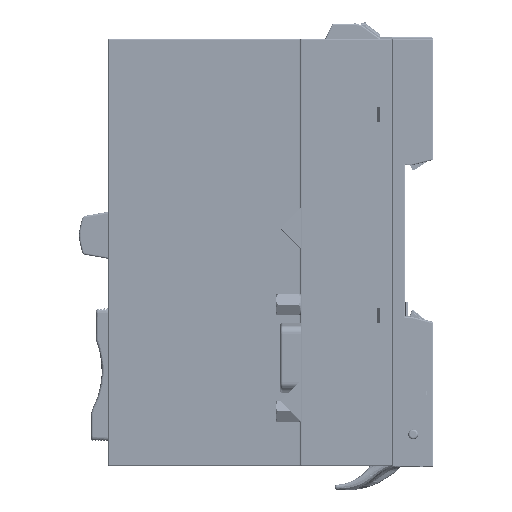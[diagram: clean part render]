
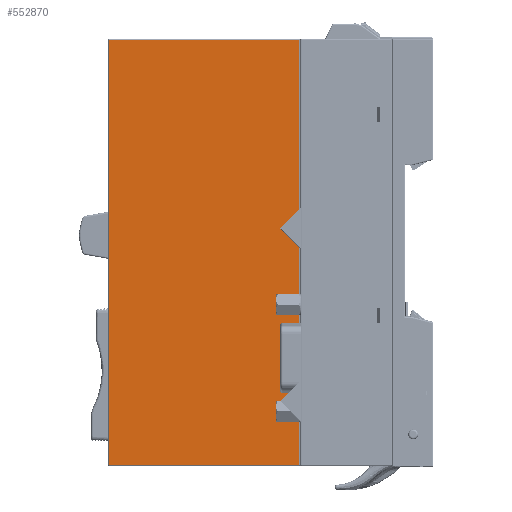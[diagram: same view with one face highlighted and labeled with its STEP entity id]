
A CAD part, left-side view. The second image highlights one B-rep face of the part: STEP entity #552870.
In plain terms, the highlighted planar face has unit normal (-1, 0.026, 0).
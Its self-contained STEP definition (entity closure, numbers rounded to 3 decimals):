
#99652=DIRECTION('',(0.026,1.,0.));
#99653=VECTOR('',#99652,44.431);
#99654=CARTESIAN_POINT('',(17.479,21.592,-49.7));
#99655=LINE('',#99654,#99653);
#99656=DIRECTION('',(0.,0.,1.));
#99657=VECTOR('',#99656,99.4);
#99658=CARTESIAN_POINT('',(18.642,66.008,-49.7));
#99659=LINE('',#99658,#99657);
#99660=DIRECTION('',(-0.026,-1.,0.));
#99661=VECTOR('',#99660,44.431);
#99662=CARTESIAN_POINT('',(18.642,66.008,49.7));
#99663=LINE('',#99662,#99661);
#99664=DIRECTION('',(0.,0.,1.));
#99665=VECTOR('',#99664,99.4);
#99666=CARTESIAN_POINT('',(17.479,21.592,-49.7));
#99667=LINE('',#99666,#99665);
#354683=CARTESIAN_POINT('',(17.479,21.592,-49.7));
#354684=CARTESIAN_POINT('',(18.642,66.008,-49.7));
#354685=VERTEX_POINT('',#354683);
#354686=VERTEX_POINT('',#354684);
#354689=CARTESIAN_POINT('',(17.479,21.592,49.7));
#354690=VERTEX_POINT('',#354689);
#354693=CARTESIAN_POINT('',(18.642,66.008,49.7));
#354694=VERTEX_POINT('',#354693);
#552856=CARTESIAN_POINT('',(18.65,66.3,50.));
#552857=DIRECTION('',(-1.,0.026,0.));
#552858=DIRECTION('',(-0.026,-1.,0.));
#552859=AXIS2_PLACEMENT_3D('',#552856,#552857,#552858);
#552860=PLANE('',#552859);
#552862=ORIENTED_EDGE('',*,*,#552861,.T.);
#552864=ORIENTED_EDGE('',*,*,#552863,.T.);
#552865=ORIENTED_EDGE('',*,*,#552840,.T.);
#552867=ORIENTED_EDGE('',*,*,#552866,.F.);
#552868=EDGE_LOOP('',(#552862,#552864,#552865,#552867));
#552869=FACE_OUTER_BOUND('',#552868,.F.);
#552870=ADVANCED_FACE('',(#552869),#552860,.T.);
#552840=EDGE_CURVE('',#354694,#354690,#99663,.T.);
#552861=EDGE_CURVE('',#354685,#354686,#99655,.T.);
#552863=EDGE_CURVE('',#354686,#354694,#99659,.T.);
#552866=EDGE_CURVE('',#354685,#354690,#99667,.T.);
